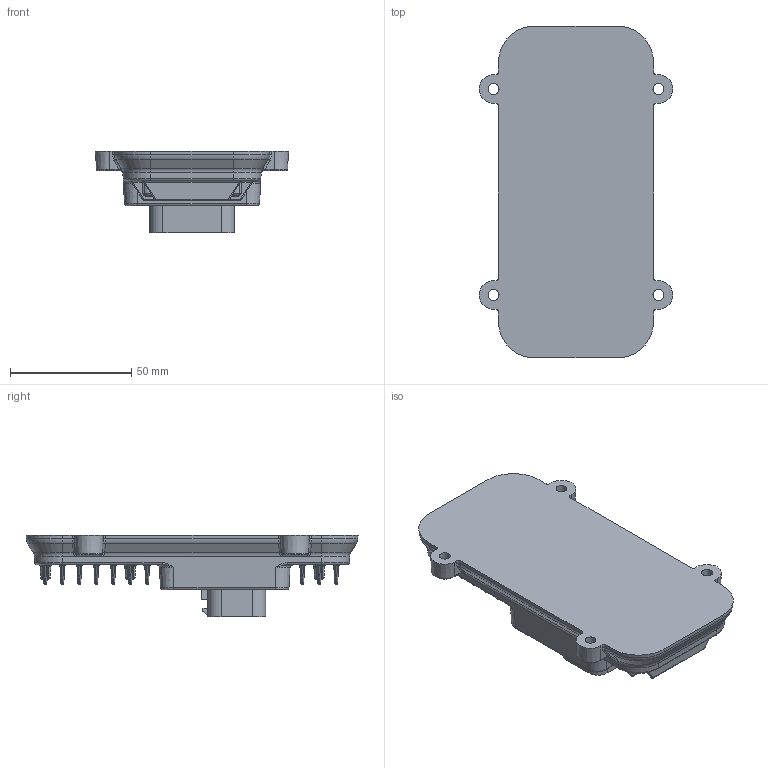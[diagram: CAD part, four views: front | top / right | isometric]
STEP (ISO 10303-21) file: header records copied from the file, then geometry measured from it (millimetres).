
FILE_DESCRIPTION(/* description */ (''),/* implementation_level */ '2;1');
FILE_NAME(/* name */ 'GEN2 Expmod export.step',/* time_stamp */ '2026-07-08T08:16:23+02:00',/* author */ (''),/* organization */ (''),/* preprocessor_version */ 'ST-DEVELOPER v20.1',/* originating_system */ 'Autodesk Translation Framework v15.8.0.0',/* authorisation */ '');
FILE_SCHEMA (('AUTOMOTIVE_DESIGN { 1 0 10303 214 3 1 1 }'));
Length unit declared in the file: millimetre
Products named in the file (4): 2026-07-08-08-09-42-452; SPORT+ Case; 34 pin superseal NO PINS; c-6437288-6-d-3d v1
Assembly tree (3 placements, depth 3):
  2026-07-08-08-09-42-452
    SPORT+ Case
    34 pin superseal NO PINS
      c-6437288-6-d-3d v1
Bounding box: 79.84 x 137.01 x 33.7 mm (x, y, z)
Volume: 62496.4 mm3; surface area: 59510.7 mm2
Topology: 2 solids, 2 shells, 1050 faces, 2556 edges, 1503 vertices
Faces by surface type: bspline 312, plane 292, cylinder 275, cone 95, torus 74, sphere 2
Full cylindrical faces by diameter (mm): 2.075 x12, 2.6 x1, 4.2 x1, 4.5 x4
Entity records: 36484 total; most frequent: CARTESIAN_POINT 12902, ORIENTED_EDGE 5024, DIRECTION 4753, EDGE_CURVE 2512, AXIS2_PLACEMENT_3D 1828, VERTEX_POINT 1503, EDGE_LOOP 1097, LINE 1097
